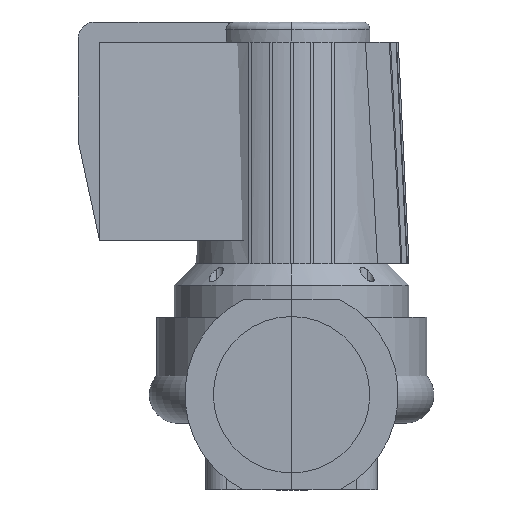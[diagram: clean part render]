
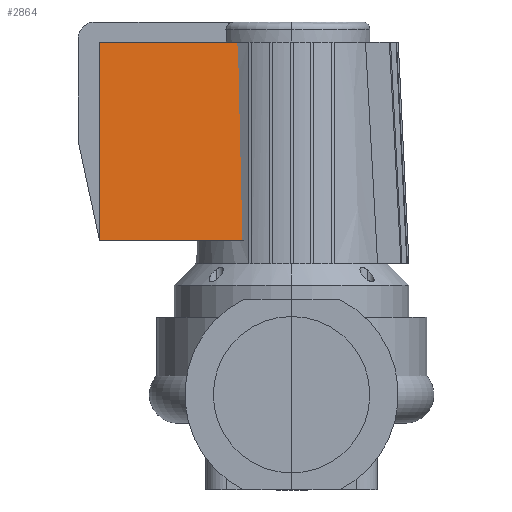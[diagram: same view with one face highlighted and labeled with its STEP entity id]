
A CAD part, left-side view. The second image highlights one B-rep face of the part: STEP entity #2864.
In plain terms, the highlighted planar face has unit normal (-0.997, 0, 0.071).
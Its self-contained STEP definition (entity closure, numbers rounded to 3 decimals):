
#249=PLANE('',#3119);
#406=FACE_OUTER_BOUND('',#590,.T.);
#590=EDGE_LOOP('',(#2420,#2421,#2422,#2423));
#744=LINE('',#6130,#953);
#752=LINE('',#6214,#961);
#761=LINE('',#6231,#970);
#762=LINE('',#6232,#971);
#953=VECTOR('',#3636,304.8);
#961=VECTOR('',#3652,304.8);
#970=VECTOR('',#3665,304.8);
#971=VECTOR('',#3666,304.8);
#1338=VERTEX_POINT('',#6128);
#1339=VERTEX_POINT('',#6129);
#1349=VERTEX_POINT('',#6212);
#1355=VERTEX_POINT('',#6230);
#1704=EDGE_CURVE('',#1338,#1339,#744,.T.);
#1717=EDGE_CURVE('',#1339,#1349,#752,.T.);
#1726=EDGE_CURVE('',#1355,#1349,#761,.T.);
#1727=EDGE_CURVE('',#1338,#1355,#762,.T.);
#2420=ORIENTED_EDGE('',*,*,#1726,.F.);
#2421=ORIENTED_EDGE('',*,*,#1727,.F.);
#2422=ORIENTED_EDGE('',*,*,#1704,.T.);
#2423=ORIENTED_EDGE('',*,*,#1717,.T.);
#2864=ADVANCED_FACE('',(#406),#249,.T.);
#3119=AXIS2_PLACEMENT_3D('',#6229,#3663,#3664);
#3636=DIRECTION('',(0.071,0.,0.997));
#3652=DIRECTION('',(0.,1.,0.));
#3663=DIRECTION('center_axis',(-0.997,0.,0.071));
#3664=DIRECTION('ref_axis',(0.,1.,0.));
#3665=DIRECTION('',(0.071,0.,0.997));
#3666=DIRECTION('',(0.,1.,0.));
#6128=CARTESIAN_POINT('',(35312.75,-35951.239,108.204));
#6129=CARTESIAN_POINT('',(35322.75,-35951.239,247.916));
#6130=CARTESIAN_POINT('',(35312.75,-35951.239,108.204));
#6212=CARTESIAN_POINT('',(35322.75,-35846.239,247.916));
#6214=CARTESIAN_POINT('',(35322.75,-35951.239,247.916));
#6229=CARTESIAN_POINT('Origin',(35322.75,-35981.239,247.916));
#6230=CARTESIAN_POINT('',(35312.75,-35846.239,108.204));
#6231=CARTESIAN_POINT('',(35312.75,-35846.239,108.204));
#6232=CARTESIAN_POINT('',(35312.75,-35951.239,108.204));
